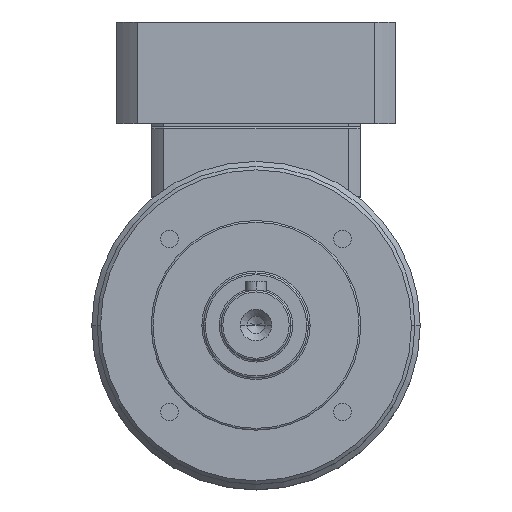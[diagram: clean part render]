
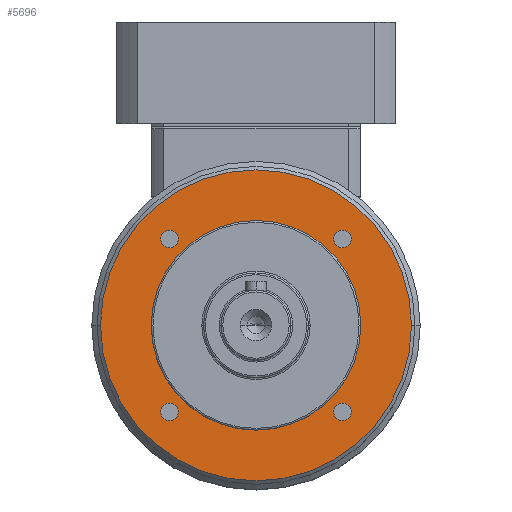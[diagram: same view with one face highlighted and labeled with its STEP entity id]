
A CAD part, top view. The second image highlights one B-rep face of the part: STEP entity #5696.
In plain terms, the highlighted planar face has unit normal (0, 0, 1).
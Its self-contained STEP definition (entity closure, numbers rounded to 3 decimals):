
#4 = CIRCLE ( 'NONE', #7541, 2.5 ) ;
#260 = FACE_BOUND ( 'NONE', #6117, .T. ) ;
#447 = VERTEX_POINT ( 'NONE', #5778 ) ;
#542 = AXIS2_PLACEMENT_3D ( 'NONE', #3705, #6670, #1288 ) ;
#655 = VERTEX_POINT ( 'NONE', #2040 ) ;
#661 = EDGE_LOOP ( 'NONE', ( #2425, #4470 ) ) ;
#705 = AXIS2_PLACEMENT_3D ( 'NONE', #2571, #2721, #7469 ) ;
#745 = DIRECTION ( 'NONE',  ( 1., 0., 0. ) ) ;
#815 = CIRCLE ( 'NONE', #6710, 30. ) ;
#855 = CARTESIAN_POINT ( 'NONE',  ( -24.749, -24.749, 19.25 ) ) ;
#925 = AXIS2_PLACEMENT_3D ( 'NONE', #4269, #5445, #6612 ) ;
#1193 = CARTESIAN_POINT ( 'NONE',  ( -24.749, 24.749, 19.25 ) ) ;
#1230 = EDGE_CURVE ( 'NONE', #655, #7406, #5125, .T. ) ;
#1273 = CARTESIAN_POINT ( 'NONE',  ( -44.5, 0., 19.25 ) ) ;
#1288 = DIRECTION ( 'NONE',  ( 1., 0., 0. ) ) ;
#1311 = ORIENTED_EDGE ( 'NONE', *, *, #3052, .F. ) ;
#1323 = CIRCLE ( 'NONE', #705, 2.5 ) ;
#1382 = DIRECTION ( 'NONE',  ( 0., 0., 1. ) ) ;
#1398 = DIRECTION ( 'NONE',  ( 1., 0., 0. ) ) ;
#1475 = EDGE_LOOP ( 'NONE', ( #2771, #2693 ) ) ;
#1483 = CARTESIAN_POINT ( 'NONE',  ( -22.249, 24.749, 19.25 ) ) ;
#1490 = VERTEX_POINT ( 'NONE', #5280 ) ;
#1549 = CIRCLE ( 'NONE', #925, 2.5 ) ;
#1551 = FACE_OUTER_BOUND ( 'NONE', #661, .T. ) ;
#1574 = CARTESIAN_POINT ( 'NONE',  ( 0., 0., 19.25 ) ) ;
#1698 = DIRECTION ( 'NONE',  ( 1., 0., 0. ) ) ;
#1833 = ORIENTED_EDGE ( 'NONE', *, *, #7350, .F. ) ;
#1839 = ORIENTED_EDGE ( 'NONE', *, *, #6787, .F. ) ;
#2020 = DIRECTION ( 'NONE',  ( 1., 0., 0. ) ) ;
#2040 = CARTESIAN_POINT ( 'NONE',  ( -27.249, 24.749, 19.25 ) ) ;
#2071 = ORIENTED_EDGE ( 'NONE', *, *, #1230, .F. ) ;
#2117 = DIRECTION ( 'NONE',  ( 0., 0., 1. ) ) ;
#2165 = CIRCLE ( 'NONE', #2551, 2.5 ) ;
#2376 = VERTEX_POINT ( 'NONE', #6565 ) ;
#2425 = ORIENTED_EDGE ( 'NONE', *, *, #6795, .T. ) ;
#2450 = CARTESIAN_POINT ( 'NONE',  ( 22.249, 24.749, 19.25 ) ) ;
#2551 = AXIS2_PLACEMENT_3D ( 'NONE', #4655, #5916, #2853 ) ;
#2564 = DIRECTION ( 'NONE',  ( 0., 0., 1. ) ) ;
#2571 = CARTESIAN_POINT ( 'NONE',  ( 24.749, 24.749, 19.25 ) ) ;
#2598 = CARTESIAN_POINT ( 'NONE',  ( -22.249, -24.749, 19.25 ) ) ;
#2693 = ORIENTED_EDGE ( 'NONE', *, *, #7679, .F. ) ;
#2721 = DIRECTION ( 'NONE',  ( 0., 0., 1. ) ) ;
#2771 = ORIENTED_EDGE ( 'NONE', *, *, #5364, .F. ) ;
#2853 = DIRECTION ( 'NONE',  ( 1., 0., 0. ) ) ;
#3051 = DIRECTION ( 'NONE',  ( 0., 0., 1. ) ) ;
#3052 = EDGE_CURVE ( 'NONE', #5656, #2376, #4, .T. ) ;
#3058 = CIRCLE ( 'NONE', #3186, 44.5 ) ;
#3185 = FACE_BOUND ( 'NONE', #4946, .T. ) ;
#3186 = AXIS2_PLACEMENT_3D ( 'NONE', #4966, #1382, #6839 ) ;
#3335 = FACE_BOUND ( 'NONE', #5803, .T. ) ;
#3376 = FACE_BOUND ( 'NONE', #1475, .T. ) ;
#3449 = DIRECTION ( 'NONE',  ( 1., 0., 0. ) ) ;
#3524 = CARTESIAN_POINT ( 'NONE',  ( 30., 0., 19.25 ) ) ;
#3705 = CARTESIAN_POINT ( 'NONE',  ( 0., 0., 19.25 ) ) ;
#3724 = DIRECTION ( 'NONE',  ( 1., 0., 0. ) ) ;
#3739 = VERTEX_POINT ( 'NONE', #6180 ) ;
#3951 = AXIS2_PLACEMENT_3D ( 'NONE', #5677, #5638, #2020 ) ;
#4000 = DIRECTION ( 'NONE',  ( 0., 0., 1. ) ) ;
#4068 = CARTESIAN_POINT ( 'NONE',  ( 0., 0., 19.25 ) ) ;
#4269 = CARTESIAN_POINT ( 'NONE',  ( 24.749, 24.749, 19.25 ) ) ;
#4315 = CIRCLE ( 'NONE', #542, 30. ) ;
#4323 = EDGE_CURVE ( 'NONE', #2376, #5656, #2165, .T. ) ;
#4339 = CIRCLE ( 'NONE', #4959, 44.5 ) ;
#4455 = EDGE_CURVE ( 'NONE', #7406, #655, #6679, .T. ) ;
#4470 = ORIENTED_EDGE ( 'NONE', *, *, #4585, .T. ) ;
#4544 = ORIENTED_EDGE ( 'NONE', *, *, #5568, .F. ) ;
#4545 = DIRECTION ( 'NONE',  ( 0., 0., 1. ) ) ;
#4585 = EDGE_CURVE ( 'NONE', #1490, #6449, #3058, .T. ) ;
#4643 = CARTESIAN_POINT ( 'NONE',  ( -30., 0., 19.25 ) ) ;
#4651 = DIRECTION ( 'NONE',  ( 0., 0., 1. ) ) ;
#4655 = CARTESIAN_POINT ( 'NONE',  ( -24.749, -24.749, 19.25 ) ) ;
#4672 = ORIENTED_EDGE ( 'NONE', *, *, #4323, .F. ) ;
#4717 = AXIS2_PLACEMENT_3D ( 'NONE', #6788, #2564, #745 ) ;
#4946 = EDGE_LOOP ( 'NONE', ( #5260, #2071 ) ) ;
#4959 = AXIS2_PLACEMENT_3D ( 'NONE', #4068, #6451, #1698 ) ;
#4966 = CARTESIAN_POINT ( 'NONE',  ( 0., 0., 19.25 ) ) ;
#5022 = CARTESIAN_POINT ( 'NONE',  ( 0., 0., 19.25 ) ) ;
#5125 = CIRCLE ( 'NONE', #5883, 2.5 ) ;
#5173 = DIRECTION ( 'NONE',  ( 1., 0., 0. ) ) ;
#5260 = ORIENTED_EDGE ( 'NONE', *, *, #4455, .F. ) ;
#5267 = VERTEX_POINT ( 'NONE', #3524 ) ;
#5280 = CARTESIAN_POINT ( 'NONE',  ( 44.5, 0., 19.25 ) ) ;
#5364 = EDGE_CURVE ( 'NONE', #447, #7257, #1549, .T. ) ;
#5445 = DIRECTION ( 'NONE',  ( 0., 0., 1. ) ) ;
#5568 = EDGE_CURVE ( 'NONE', #5267, #7141, #4315, .T. ) ;
#5638 = DIRECTION ( 'NONE',  ( 0., 0., 1. ) ) ;
#5656 = VERTEX_POINT ( 'NONE', #2598 ) ;
#5677 = CARTESIAN_POINT ( 'NONE',  ( 24.749, -24.749, 19.25 ) ) ;
#5696 = ADVANCED_FACE ( 'NONE', ( #3185, #6931, #3335, #3376, #1551, #260 ), #6820, .T. ) ;
#5778 = CARTESIAN_POINT ( 'NONE',  ( 27.249, 24.749, 19.25 ) ) ;
#5803 = EDGE_LOOP ( 'NONE', ( #1833, #7598 ) ) ;
#5883 = AXIS2_PLACEMENT_3D ( 'NONE', #6965, #4000, #3449 ) ;
#5916 = DIRECTION ( 'NONE',  ( 0., 0., 1. ) ) ;
#6117 = EDGE_LOOP ( 'NONE', ( #1839, #4544 ) ) ;
#6180 = CARTESIAN_POINT ( 'NONE',  ( 22.249, -24.749, 19.25 ) ) ;
#6449 = VERTEX_POINT ( 'NONE', #1273 ) ;
#6451 = DIRECTION ( 'NONE',  ( 0., 0., 1. ) ) ;
#6565 = CARTESIAN_POINT ( 'NONE',  ( -27.249, -24.749, 19.25 ) ) ;
#6567 = CARTESIAN_POINT ( 'NONE',  ( 27.249, -24.749, 19.25 ) ) ;
#6608 = EDGE_CURVE ( 'NONE', #3739, #6884, #7335, .T. ) ;
#6612 = DIRECTION ( 'NONE',  ( 1., 0., 0. ) ) ;
#6670 = DIRECTION ( 'NONE',  ( 0., 0., 1. ) ) ;
#6679 = CIRCLE ( 'NONE', #7433, 2.5 ) ;
#6710 = AXIS2_PLACEMENT_3D ( 'NONE', #1574, #4651, #7036 ) ;
#6787 = EDGE_CURVE ( 'NONE', #7141, #5267, #815, .T. ) ;
#6788 = CARTESIAN_POINT ( 'NONE',  ( 24.749, -24.749, 19.25 ) ) ;
#6795 = EDGE_CURVE ( 'NONE', #6449, #1490, #4339, .T. ) ;
#6809 = AXIS2_PLACEMENT_3D ( 'NONE', #5022, #4545, #5173 ) ;
#6820 = PLANE ( 'NONE',  #6809 ) ;
#6839 = DIRECTION ( 'NONE',  ( 1., 0., 0. ) ) ;
#6884 = VERTEX_POINT ( 'NONE', #6567 ) ;
#6931 = FACE_BOUND ( 'NONE', #7612, .T. ) ;
#6965 = CARTESIAN_POINT ( 'NONE',  ( -24.749, 24.749, 19.25 ) ) ;
#7036 = DIRECTION ( 'NONE',  ( 1., 0., 0. ) ) ;
#7141 = VERTEX_POINT ( 'NONE', #4643 ) ;
#7257 = VERTEX_POINT ( 'NONE', #2450 ) ;
#7335 = CIRCLE ( 'NONE', #3951, 2.5 ) ;
#7350 = EDGE_CURVE ( 'NONE', #6884, #3739, #7599, .T. ) ;
#7406 = VERTEX_POINT ( 'NONE', #1483 ) ;
#7433 = AXIS2_PLACEMENT_3D ( 'NONE', #1193, #3051, #3724 ) ;
#7469 = DIRECTION ( 'NONE',  ( 1., 0., 0. ) ) ;
#7541 = AXIS2_PLACEMENT_3D ( 'NONE', #855, #2117, #1398 ) ;
#7598 = ORIENTED_EDGE ( 'NONE', *, *, #6608, .F. ) ;
#7599 = CIRCLE ( 'NONE', #4717, 2.5 ) ;
#7612 = EDGE_LOOP ( 'NONE', ( #1311, #4672 ) ) ;
#7679 = EDGE_CURVE ( 'NONE', #7257, #447, #1323, .T. ) ;
